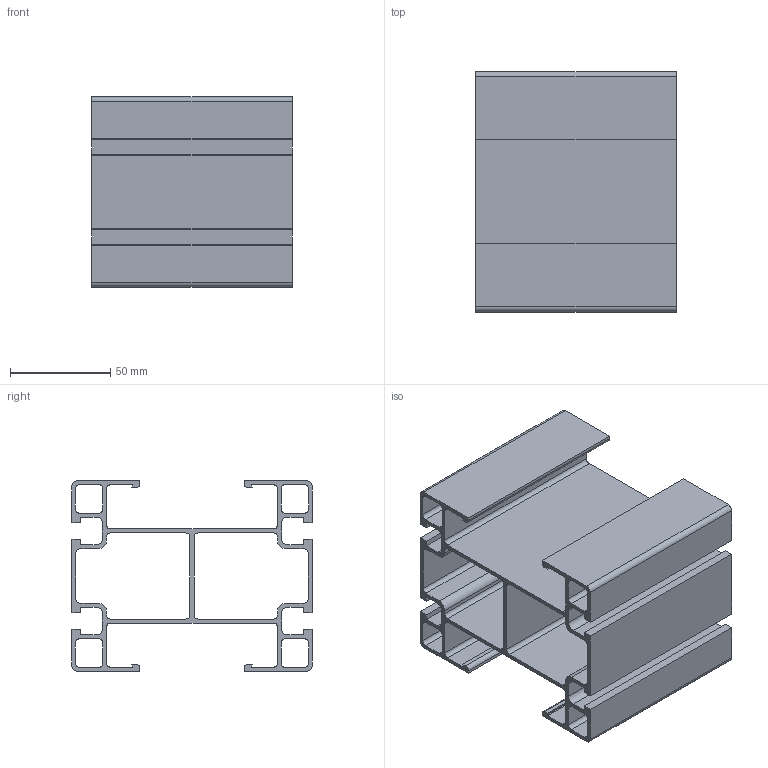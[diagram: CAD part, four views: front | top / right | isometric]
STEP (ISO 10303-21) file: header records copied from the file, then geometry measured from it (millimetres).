
FILE_DESCRIPTION (( 'STEP AP214' ), '1' );
FILE_NAME ('800.100.003.STEP', '2020-07-23T09:00:44', ( '' ), ( '' ), 'SwSTEP 2.0', 'SolidWorks 2018', '' );
FILE_SCHEMA (( 'AUTOMOTIVE_DESIGN' ));
Length unit declared in the file: millimetre
Products named in the file (1): 800.100.003
Bounding box: 100 x 120 x 95 mm (x, y, z)
Volume: 153089.1 mm3; surface area: 143720.5 mm2
Topology: 1 solids, 1 shells, 154 faces, 456 edges, 304 vertices
Faces by surface type: plane 94, cylinder 60
Entity records: 5218 total; most frequent: CARTESIAN_POINT 915, ORIENTED_EDGE 912, DIRECTION 886, EDGE_CURVE 456, VECTOR 336, LINE 336, VERTEX_POINT 304, AXIS2_PLACEMENT_3D 275
